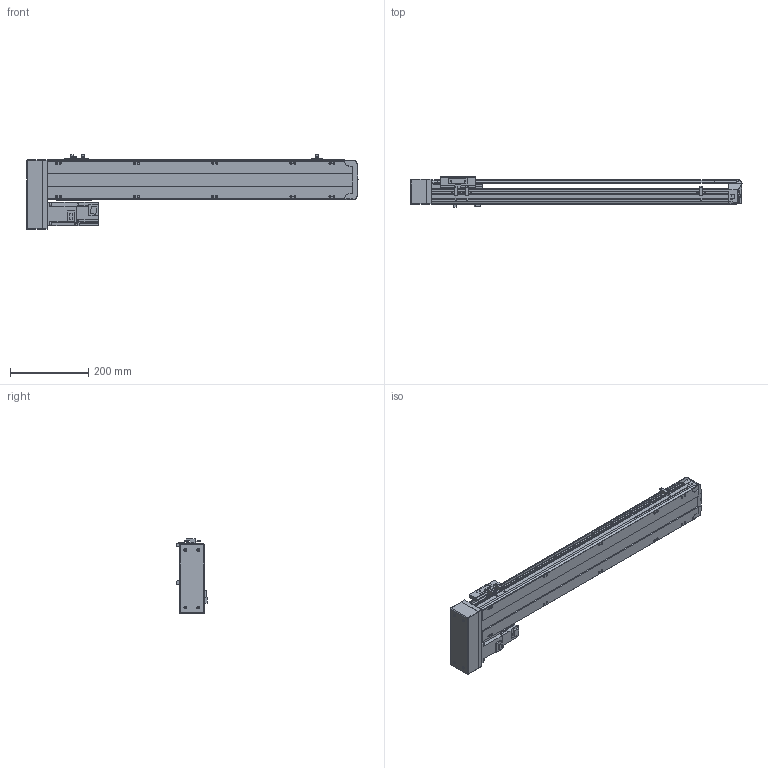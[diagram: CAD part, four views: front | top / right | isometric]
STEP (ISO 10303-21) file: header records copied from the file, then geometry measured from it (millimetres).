
FILE_DESCRIPTION( ( 'STEP AP214' ), '1' );
FILE_NAME( 'x:/temp/worker_27/temp/exporttempdir_6708_100_rjPSP/format_0/PSS120-L10-S600-BR-T40-C1-N(0).stp', '2022-06-06T00:30:35', ( 'License CC BY-ND 4.0' ), ( 'CADENAS' ), ' ', 'PARTsolutions', ' ' );
FILE_SCHEMA( ( 'AUTOMOTIVE_DESIGN { 1 0 10303 214 1 1 1 1 }' ) );
Length unit declared in the file: millimetre
Products named in the file (8): PSS120-L10-S600-BR-T40-C1-N(0); _PSS120-S600-BR-C1-N_body; _PSS120-N_Q; _PSS120-BR-C1-N_sl; _PSS120-N_sensor; _PSS120BR-N_h; _T40-p1; _PSS120-S600-BR-N_S
Assembly tree (9 placements, depth 2):
  PSS120-L10-S600-BR-T40-C1-N(0)
    _PSS120-S600-BR-C1-N_body
    _PSS120-N_Q
    _PSS120-BR-C1-N_sl
    _PSS120-N_sensor  x3
    _PSS120BR-N_h
    _T40-p1
    _PSS120-S600-BR-N_S
Bounding box: 849.35 x 76.8 x 191.2 mm (x, y, z)
Volume: 3510325 mm3; surface area: 592446.3 mm2
Topology: 9 solids, 9 shells, 832 faces, 2229 edges, 1474 vertices
Faces by surface type: plane 589, cylinder 221, cone 18, sphere 4
Full cylindrical faces by diameter (mm): 2.8 x3, 4 x4, 4.134 x14, 4.4 x2, 4.5 x4, 4.6 x3, 5 x6, 5.5 x17, 7 x2, 7.4 x4, 8 x4, 8.5 x14, 14 x1, 28 x1, 32 x2, 50 x1
Entity records: 28489 total; most frequent: CARTESIAN_POINT 4383, DIRECTION 3729, ORIENTED_EDGE 3646, EDGE_CURVE 1823, LINE 1313, VECTOR 1313, VERTEX_POINT 1260, AXIS2_PLACEMENT_3D 1208
